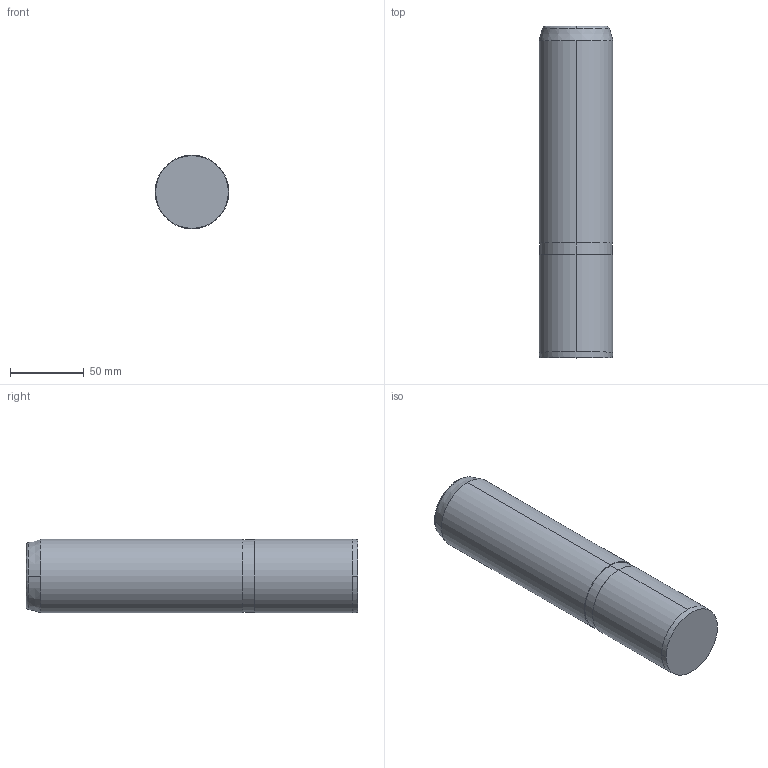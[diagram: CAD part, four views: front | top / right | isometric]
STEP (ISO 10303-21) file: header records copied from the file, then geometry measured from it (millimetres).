
FILE_DESCRIPTION (( 'STEP AP214' ), '1' );
FILE_NAME ('D13.02_50225.step', '2011-12-25T17:13:49', ( 'Dell' ), ( '' ), 'SwSTEP 2.0', 'SolidWorks 2010', '' );
FILE_SCHEMA (( 'AUTOMOTIVE_DESIGN' ));
Length unit declared in the file: millimetre
Products named in the file (1): D13.02_50225
Bounding box: 50 x 225 x 50 mm (x, y, z)
Volume: 439152.8 mm3; surface area: 38854.7 mm2
Topology: 1 solids, 1 shells, 16 faces, 38 edges, 26 vertices
Faces by surface type: cylinder 6, cone 4, plane 4, bspline 2
Entity records: 780 total; most frequent: CARTESIAN_POINT 363, DIRECTION 88, ORIENTED_EDGE 76, AXIS2_PLACEMENT_3D 39, EDGE_CURVE 38, VERTEX_POINT 26, CIRCLE 24, EDGE_LOOP 18
